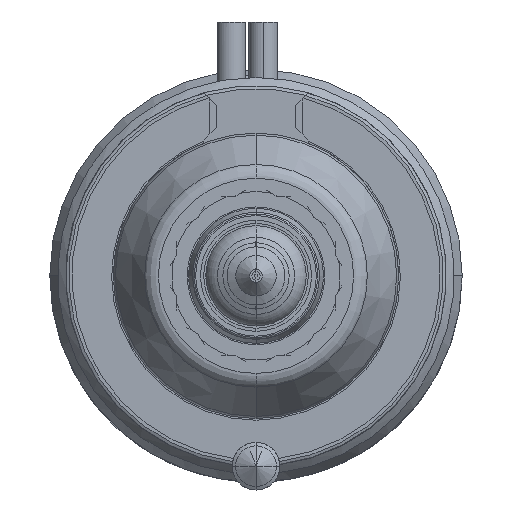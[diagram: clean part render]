
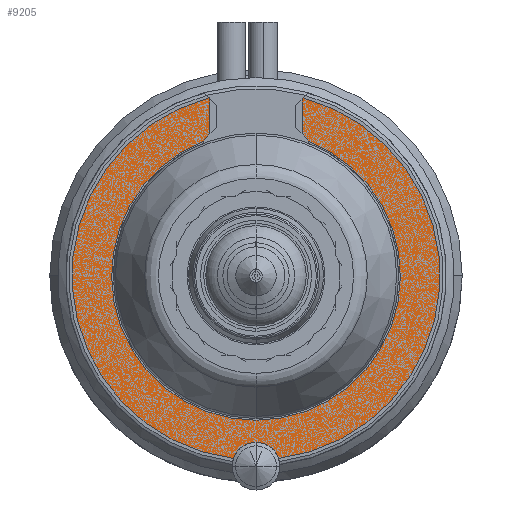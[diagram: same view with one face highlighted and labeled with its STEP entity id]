
A CAD part, front view. The second image highlights one B-rep face of the part: STEP entity #9205.
In plain terms, the highlighted planar face has unit normal (0, -1, 0).
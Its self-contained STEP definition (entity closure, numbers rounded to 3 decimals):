
#595=DIRECTION('',(0.707,0.,-0.707));
#596=VECTOR('',#595,0.092);
#597=CARTESIAN_POINT('',(-2.965,-22.,11.215));
#598=LINE('',#597,#596);
#1554=CARTESIAN_POINT('',(0.,-22.,6.2));
#1555=DIRECTION('',(0.,1.,0.));
#1556=DIRECTION('',(0.725,0.,0.689));
#1557=AXIS2_PLACEMENT_3D('',#1554,#1555,#1556);
#1569=CARTESIAN_POINT('',(0.,-22.,-12.));
#1570=DIRECTION('',(0.,1.,0.));
#1571=DIRECTION('',(-0.946,0.,0.325));
#1572=AXIS2_PLACEMENT_3D('',#1569,#1570,#1571);
#1588=CARTESIAN_POINT('',(0.,-22.,0.));
#1589=DIRECTION('',(0.,1.,0.));
#1590=DIRECTION('',(-0.122,0.,-0.992));
#1591=AXIS2_PLACEMENT_3D('',#1588,#1589,#1590);
#1600=CARTESIAN_POINT('',(0.,-22.,0.));
#1601=DIRECTION('',(0.,1.,0.));
#1602=DIRECTION('',(0.256,0.,0.967));
#1603=AXIS2_PLACEMENT_3D('',#1600,#1601,#1602);
#1616=DIRECTION('',(-0.707,0.,-0.707));
#1617=VECTOR('',#1616,0.092);
#1618=CARTESIAN_POINT('',(2.965,-22.,11.215));
#1619=LINE('',#1618,#1617);
#1624=DIRECTION('',(0.,0.,-1.));
#1625=VECTOR('',#1624,2.195);
#1626=CARTESIAN_POINT('',(2.9,-22.,11.15));
#1627=LINE('',#1626,#1625);
#1655=DIRECTION('',(0.,0.,1.));
#1656=VECTOR('',#1655,2.195);
#1657=CARTESIAN_POINT('',(-2.9,-22.,8.955));
#1658=LINE('',#1657,#1656);
#1690=CARTESIAN_POINT('',(0.,-22.,6.2));
#1691=DIRECTION('',(0.,1.,0.));
#1692=DIRECTION('',(-0.82,0.,0.572));
#1693=AXIS2_PLACEMENT_3D('',#1690,#1691,#1692);
#1705=CARTESIAN_POINT('',(0.,-22.,0.));
#1706=DIRECTION('',(0.,-1.,0.));
#1707=DIRECTION('',(-0.361,0.,0.933));
#1708=AXIS2_PLACEMENT_3D('',#1705,#1706,#1707);
#7319=CARTESIAN_POINT('',(2.965,-22.,11.215));
#7320=CARTESIAN_POINT('',(2.9,-22.,11.15));
#7321=VERTEX_POINT('',#7319);
#7322=VERTEX_POINT('',#7320);
#7327=CARTESIAN_POINT('',(-2.965,-22.,11.215));
#7328=CARTESIAN_POINT('',(-2.9,-22.,11.15));
#7329=VERTEX_POINT('',#7327);
#7330=VERTEX_POINT('',#7328);
#7365=CARTESIAN_POINT('',(2.9,-22.,8.955));
#7366=CARTESIAN_POINT('',(3.281,-22.,8.488));
#7367=VERTEX_POINT('',#7365);
#7368=VERTEX_POINT('',#7366);
#7369=CARTESIAN_POINT('',(-3.281,-22.,8.488));
#7370=CARTESIAN_POINT('',(-2.9,-22.,8.955));
#7371=VERTEX_POINT('',#7369);
#7372=VERTEX_POINT('',#7370);
#7514=CARTESIAN_POINT('',(-1.419,-22.,-11.513));
#7515=CARTESIAN_POINT('',(1.419,-22.,-11.513));
#7516=VERTEX_POINT('',#7514);
#7517=VERTEX_POINT('',#7515);
#9181=CARTESIAN_POINT('',(0.,-22.,0.));
#9182=DIRECTION('',(0.,-1.,0.));
#9183=DIRECTION('',(-1.,0.,0.));
#9184=AXIS2_PLACEMENT_3D('',#9181,#9182,#9183);
#9185=PLANE('',#9184);
#9186=ORIENTED_EDGE('',*,*,#8668,.F.);
#9188=ORIENTED_EDGE('',*,*,#9187,.T.);
#9189=ORIENTED_EDGE('',*,*,#8788,.T.);
#9191=ORIENTED_EDGE('',*,*,#9190,.F.);
#9193=ORIENTED_EDGE('',*,*,#9192,.F.);
#9195=ORIENTED_EDGE('',*,*,#9194,.T.);
#9196=ORIENTED_EDGE('',*,*,#9160,.F.);
#9198=ORIENTED_EDGE('',*,*,#9197,.F.);
#9200=ORIENTED_EDGE('',*,*,#9199,.F.);
#9202=ORIENTED_EDGE('',*,*,#9201,.T.);
#9203=EDGE_LOOP('',(#9186,#9188,#9189,#9191,#9193,#9195,#9196,#9198,#9200,
#9202));
#9204=FACE_OUTER_BOUND('',#9203,.F.);
#9205=ADVANCED_FACE('',(#9204),#9185,.T.);
#1558=CIRCLE('',#1557,4.);
#1573=CIRCLE('',#1572,1.5);
#1592=CIRCLE('',#1591,11.6);
#1604=CIRCLE('',#1603,11.6);
#1694=CIRCLE('',#1693,4.);
#1709=CIRCLE('',#1708,9.1);
#8668=EDGE_CURVE('',#7516,#7517,#1573,.T.);
#8788=EDGE_CURVE('',#7329,#7330,#598,.T.);
#9160=EDGE_CURVE('',#7367,#7368,#1558,.T.);
#9187=EDGE_CURVE('',#7516,#7329,#1592,.T.);
#9190=EDGE_CURVE('',#7372,#7330,#1658,.T.);
#9192=EDGE_CURVE('',#7371,#7372,#1694,.T.);
#9194=EDGE_CURVE('',#7371,#7368,#1709,.T.);
#9197=EDGE_CURVE('',#7322,#7367,#1627,.T.);
#9199=EDGE_CURVE('',#7321,#7322,#1619,.T.);
#9201=EDGE_CURVE('',#7321,#7517,#1604,.T.);
